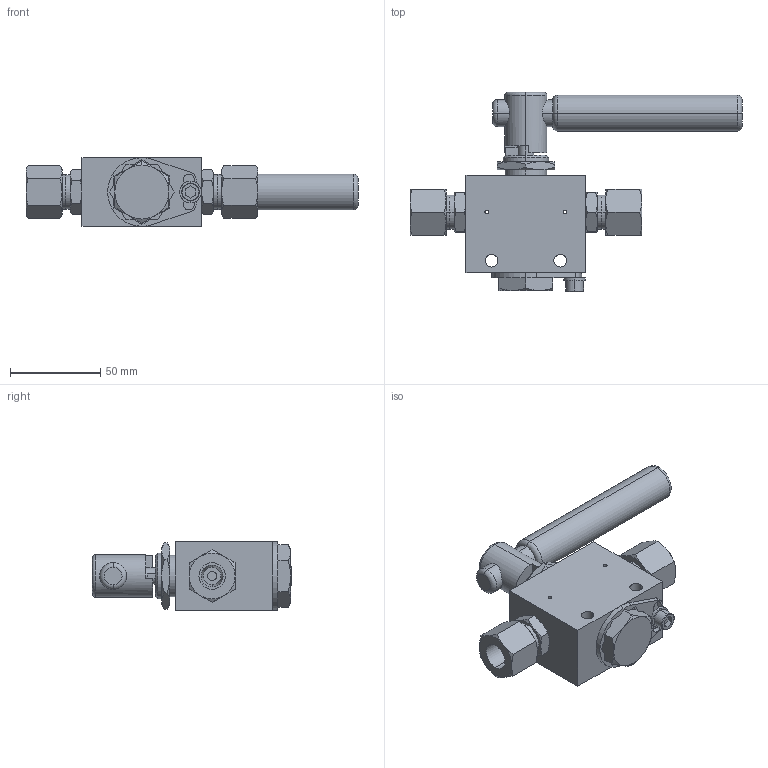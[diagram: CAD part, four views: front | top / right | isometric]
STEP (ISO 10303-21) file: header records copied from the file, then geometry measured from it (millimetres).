
FILE_DESCRIPTION (( 'STEP AP203' ), '1' );
FILE_NAME ('BV1503S06-2-90(贗董蹺陛).STEP', '2025-08-28T01:35:34', ( '' ), ( '' ), 'SwSTEP 2.0', 'SolidWorks 2023', '' );
FILE_SCHEMA (( 'CONFIG_CONTROL_DESIGN' ));
Length unit declared in the file: millimetre
Products named in the file (1): BV1503S06-2-90(클립추가)
Bounding box: 184.34 x 110.6 x 38 mm (x, y, z)
Volume: 222563.9 mm3; surface area: 41290.1 mm2
Topology: 1 solids, 1 shells, 270 faces, 632 edges, 382 vertices
Faces by surface type: plane 111, cone 86, cylinder 63, torus 10
Entity records: 8404 total; most frequent: CARTESIAN_POINT 2269, DIRECTION 1261, ORIENTED_EDGE 1256, EDGE_CURVE 628, AXIS2_PLACEMENT_3D 510, VERTEX_POINT 382, EDGE_LOOP 304, FACE_OUTER_BOUND 270
